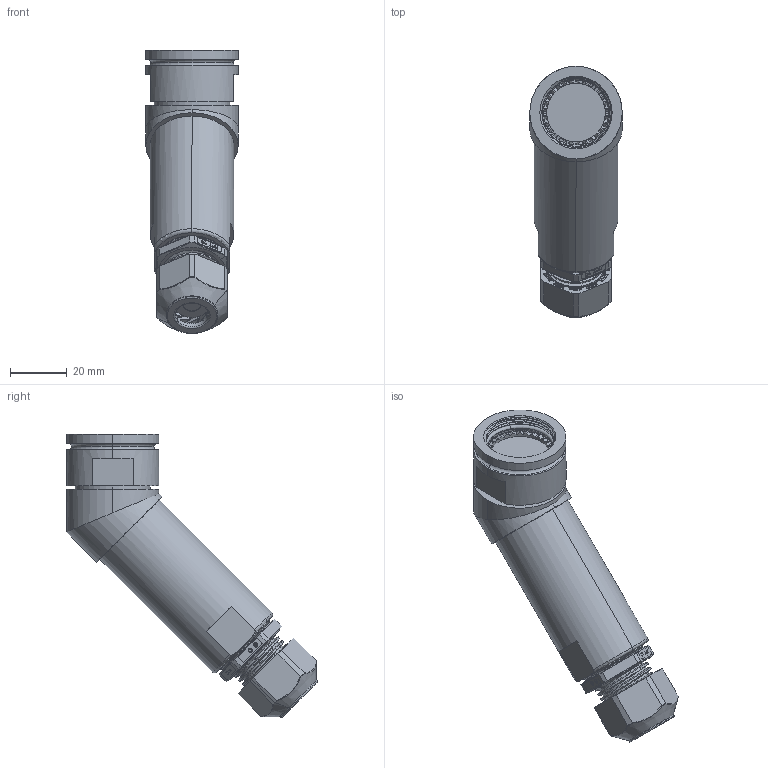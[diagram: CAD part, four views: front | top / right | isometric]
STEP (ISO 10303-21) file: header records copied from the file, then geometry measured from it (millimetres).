
FILE_DESCRIPTION (( 'STEP AP214' ), '1' );
FILE_NAME ('Q38SHELL-45X-17-XXXX-GL.STEP', '2025-09-26T14:21:40', ( '' ), ( '' ), 'SwSTEP 2.0', 'SolidWorks 2024', '' );
FILE_SCHEMA (( 'AUTOMOTIVE_DESIGN' ));
Length unit declared in the file: millimetre
Products named in the file (1): Q38SHELL-45X-17-XXXX-GL
Bounding box: 32.59 x 88.49 x 99.85 mm (x, y, z)
Surface area: 25057.2 mm2 (no closed solid volume)
Topology: 0 solids, 9 shells, 1329 faces, 3418 edges, 2162 vertices
Faces by surface type: plane 654, cylinder 242, bspline 151, torus 121, cone 107, sphere 54
Entity records: 60642 total; most frequent: CARTESIAN_POINT 34786, ORIENTED_EDGE 6821, EDGE_CURVE 3417, DIRECTION 3155, B_SPLINE_CURVE_WITH_KNOTS 2654, VERTEX_POINT 2162, AXIS2_PLACEMENT_3D 1453, EDGE_LOOP 1396
